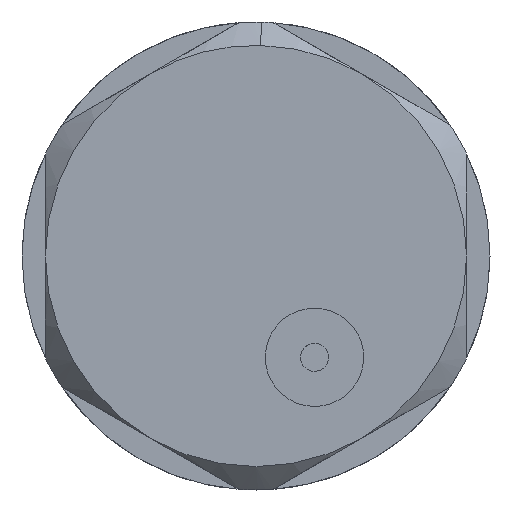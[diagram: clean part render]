
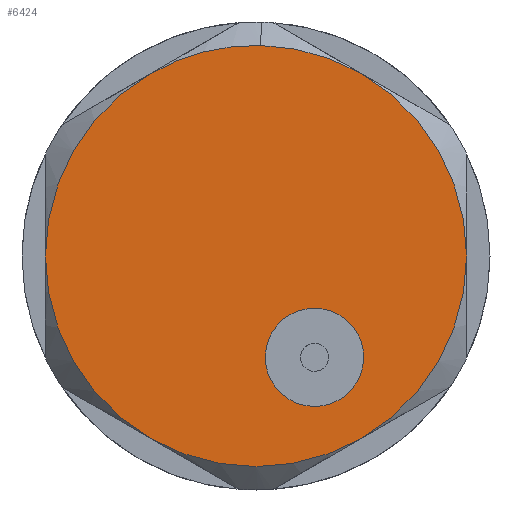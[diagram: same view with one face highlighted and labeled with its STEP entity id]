
A CAD part, front view. The second image highlights one B-rep face of the part: STEP entity #6424.
In plain terms, the highlighted planar face has unit normal (0, -1, 0).
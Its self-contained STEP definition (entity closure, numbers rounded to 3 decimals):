
#526 = AXIS2_PLACEMENT_3D ( 'NONE', #10738, #7676, #7721 ) ;
#569 = DIRECTION ( 'NONE',  ( 0., -1., 0. ) ) ;
#671 = FACE_OUTER_BOUND ( 'NONE', #6873, .T. ) ;
#972 = PLANE ( 'NONE',  #8684 ) ;
#1220 = CIRCLE ( 'NONE', #6573, 9. ) ;
#1337 = ORIENTED_EDGE ( 'NONE', *, *, #7316, .T. ) ;
#1511 = CARTESIAN_POINT ( 'NONE',  ( -0.219, -59.051, 20. ) ) ;
#1588 = AXIS2_PLACEMENT_3D ( 'NONE', #3039, #9897, #4014 ) ;
#1658 = CARTESIAN_POINT ( 'NONE',  ( -4.719, -59.051, 27.794 ) ) ;
#1708 = ORIENTED_EDGE ( 'NONE', *, *, #12151, .F. ) ;
#1917 = CARTESIAN_POINT ( 'NONE',  ( 2.281, -59.051, 15.67 ) ) ;
#1924 = EDGE_CURVE ( 'NONE', #6416, #9781, #10603, .T. ) ;
#1928 = AXIS2_PLACEMENT_3D ( 'NONE', #6467, #569, #7461 ) ;
#2309 = CIRCLE ( 'NONE', #11970, 2.1 ) ;
#2317 = DIRECTION ( 'NONE',  ( 0., -1., 0. ) ) ;
#2521 = DIRECTION ( 'NONE',  ( -0.023, 0., -1. ) ) ;
#2560 = CIRCLE ( 'NONE', #1588, 9. ) ;
#2841 = CARTESIAN_POINT ( 'NONE',  ( -0.219, -59.051, 20. ) ) ;
#2930 = DIRECTION ( 'NONE',  ( -0.023, 0., -1. ) ) ;
#3039 = CARTESIAN_POINT ( 'NONE',  ( -0.219, -59.051, 20. ) ) ;
#3118 = CARTESIAN_POINT ( 'NONE',  ( 4.281, -59.051, 12.206 ) ) ;
#3192 = AXIS2_PLACEMENT_3D ( 'NONE', #5673, #12533, #6668 ) ;
#3228 = CIRCLE ( 'NONE', #7384, 9. ) ;
#3807 = DIRECTION ( 'NONE',  ( -0.023, 0., -1. ) ) ;
#4014 = DIRECTION ( 'NONE',  ( -0.023, 0., -1. ) ) ;
#4084 = CARTESIAN_POINT ( 'NONE',  ( 2.328, -59.051, 17.769 ) ) ;
#4410 = CIRCLE ( 'NONE', #3192, 2.1 ) ;
#4460 = EDGE_LOOP ( 'NONE', ( #8852, #1708 ) ) ;
#4747 = CARTESIAN_POINT ( 'NONE',  ( 8.781, -59.051, 20. ) ) ;
#4827 = CIRCLE ( 'NONE', #8599, 9. ) ;
#4849 = EDGE_CURVE ( 'NONE', #9753, #8690, #1220, .T. ) ;
#4910 = ORIENTED_EDGE ( 'NONE', *, *, #9561, .T. ) ;
#4911 = CARTESIAN_POINT ( 'NONE',  ( -0.219, -59.051, 20. ) ) ;
#5202 = CARTESIAN_POINT ( 'NONE',  ( -0.219, -59.051, 20. ) ) ;
#5217 = CIRCLE ( 'NONE', #6846, 9. ) ;
#5305 = EDGE_CURVE ( 'NONE', #11985, #5940, #4410, .T. ) ;
#5400 = CARTESIAN_POINT ( 'NONE',  ( -4.719, -59.051, 12.206 ) ) ;
#5673 = CARTESIAN_POINT ( 'NONE',  ( 2.281, -59.051, 15.67 ) ) ;
#5922 = DIRECTION ( 'NONE',  ( -0.023, 0., -1. ) ) ;
#5940 = VERTEX_POINT ( 'NONE', #4084 ) ;
#6216 = DIRECTION ( 'NONE',  ( -0.023, 0., -1. ) ) ;
#6416 = VERTEX_POINT ( 'NONE', #10761 ) ;
#6424 = ADVANCED_FACE ( 'NONE', ( #8209, #671 ), #972, .T. ) ;
#6467 = CARTESIAN_POINT ( 'NONE',  ( -0.219, -59.051, 20. ) ) ;
#6547 = VERTEX_POINT ( 'NONE', #3118 ) ;
#6573 = AXIS2_PLACEMENT_3D ( 'NONE', #5202, #12075, #6216 ) ;
#6668 = DIRECTION ( 'NONE',  ( -0.023, 0., -1. ) ) ;
#6676 = VERTEX_POINT ( 'NONE', #5400 ) ;
#6846 = AXIS2_PLACEMENT_3D ( 'NONE', #8217, #2317, #9171 ) ;
#6873 = EDGE_LOOP ( 'NONE', ( #9044, #7168, #11881, #4910, #8736, #7786, #1337 ) ) ;
#7168 = ORIENTED_EDGE ( 'NONE', *, *, #11217, .T. ) ;
#7316 = EDGE_CURVE ( 'NONE', #9781, #9753, #12730, .T. ) ;
#7384 = AXIS2_PLACEMENT_3D ( 'NONE', #2841, #9688, #3807 ) ;
#7461 = DIRECTION ( 'NONE',  ( -0.023, 0., -1. ) ) ;
#7676 = DIRECTION ( 'NONE',  ( 0., -1., 0. ) ) ;
#7721 = DIRECTION ( 'NONE',  ( -0.023, 0., -1. ) ) ;
#7786 = ORIENTED_EDGE ( 'NONE', *, *, #1924, .T. ) ;
#8209 = FACE_BOUND ( 'NONE', #4460, .T. ) ;
#8217 = CARTESIAN_POINT ( 'NONE',  ( -0.219, -59.051, 20. ) ) ;
#8408 = DIRECTION ( 'NONE',  ( 0., -1., 0. ) ) ;
#8511 = VERTEX_POINT ( 'NONE', #4747 ) ;
#8599 = AXIS2_PLACEMENT_3D ( 'NONE', #1511, #8408, #2521 ) ;
#8684 = AXIS2_PLACEMENT_3D ( 'NONE', #4911, #11795, #5922 ) ;
#8690 = VERTEX_POINT ( 'NONE', #12001 ) ;
#8736 = ORIENTED_EDGE ( 'NONE', *, *, #12128, .T. ) ;
#8804 = DIRECTION ( 'NONE',  ( 0., -1., 0. ) ) ;
#8852 = ORIENTED_EDGE ( 'NONE', *, *, #5305, .F. ) ;
#9044 = ORIENTED_EDGE ( 'NONE', *, *, #4849, .T. ) ;
#9171 = DIRECTION ( 'NONE',  ( -0.023, 0., -1. ) ) ;
#9557 = CARTESIAN_POINT ( 'NONE',  ( -0.016, -59.051, 28.998 ) ) ;
#9561 = EDGE_CURVE ( 'NONE', #6547, #8511, #5217, .T. ) ;
#9688 = DIRECTION ( 'NONE',  ( 0., -1., 0. ) ) ;
#9753 = VERTEX_POINT ( 'NONE', #1658 ) ;
#9781 = VERTEX_POINT ( 'NONE', #9557 ) ;
#9897 = DIRECTION ( 'NONE',  ( 0., -1., 0. ) ) ;
#10603 = CIRCLE ( 'NONE', #526, 9. ) ;
#10738 = CARTESIAN_POINT ( 'NONE',  ( -0.219, -59.051, 20. ) ) ;
#10761 = CARTESIAN_POINT ( 'NONE',  ( 4.281, -59.051, 27.794 ) ) ;
#11217 = EDGE_CURVE ( 'NONE', #8690, #6676, #2560, .T. ) ;
#11395 = EDGE_CURVE ( 'NONE', #6676, #6547, #4827, .T. ) ;
#11413 = CARTESIAN_POINT ( 'NONE',  ( 2.234, -59.051, 13.57 ) ) ;
#11795 = DIRECTION ( 'NONE',  ( 0., -1., 0. ) ) ;
#11881 = ORIENTED_EDGE ( 'NONE', *, *, #11395, .T. ) ;
#11970 = AXIS2_PLACEMENT_3D ( 'NONE', #1917, #8804, #2930 ) ;
#11985 = VERTEX_POINT ( 'NONE', #11413 ) ;
#12001 = CARTESIAN_POINT ( 'NONE',  ( -9.219, -59.051, 20. ) ) ;
#12075 = DIRECTION ( 'NONE',  ( 0., -1., 0. ) ) ;
#12128 = EDGE_CURVE ( 'NONE', #8511, #6416, #3228, .T. ) ;
#12151 = EDGE_CURVE ( 'NONE', #5940, #11985, #2309, .T. ) ;
#12533 = DIRECTION ( 'NONE',  ( 0., -1., 0. ) ) ;
#12730 = CIRCLE ( 'NONE', #1928, 9. ) ;
